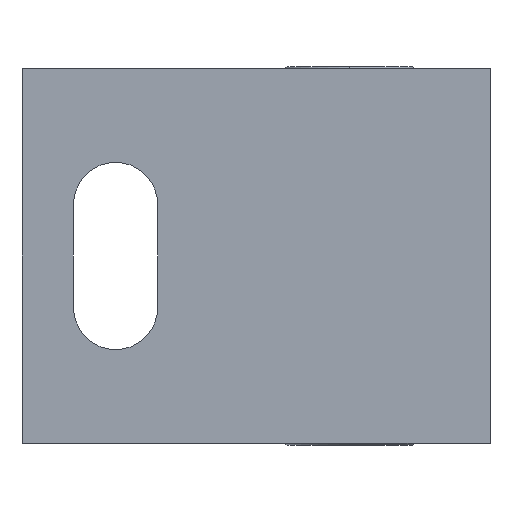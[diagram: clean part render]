
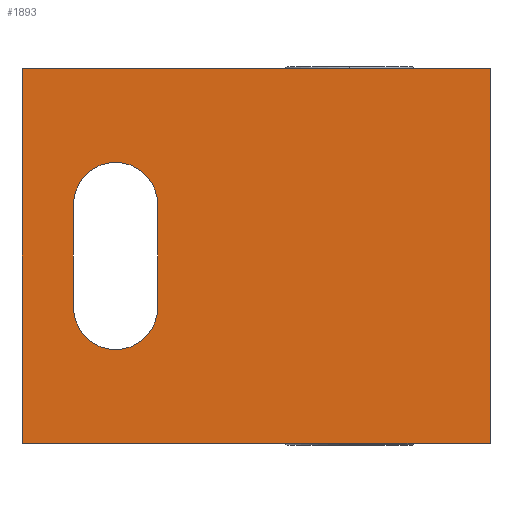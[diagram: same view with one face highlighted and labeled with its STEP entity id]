
A CAD part, front view. The second image highlights one B-rep face of the part: STEP entity #1893.
In plain terms, the highlighted planar face has unit normal (0, -1, 0).
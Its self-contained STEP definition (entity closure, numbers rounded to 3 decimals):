
#49 = CARTESIAN_POINT ( 'NONE',  ( 2.75, 0., 7.25 ) ) ;
#63 = VECTOR ( 'NONE', #826, 1000. ) ;
#137 = LINE ( 'NONE', #2048, #1052 ) ;
#163 = VERTEX_POINT ( 'NONE', #1337 ) ;
#362 = CARTESIAN_POINT ( 'NONE',  ( 5., 0., 7.25 ) ) ;
#380 = DIRECTION ( 'NONE',  ( 0., 1., 0. ) ) ;
#381 = AXIS2_PLACEMENT_3D ( 'NONE', #2721, #541, #808 ) ;
#391 = EDGE_LOOP ( 'NONE', ( #2719, #1421, #1124, #778 ) ) ;
#457 = CARTESIAN_POINT ( 'NONE',  ( 2.75, 0., 7.25 ) ) ;
#541 = DIRECTION ( 'NONE',  ( 0., 1., 0. ) ) ;
#560 = EDGE_LOOP ( 'NONE', ( #1840, #853, #2338, #789 ) ) ;
#563 = CIRCLE ( 'NONE', #1141, 2.25 ) ;
#676 = VERTEX_POINT ( 'NONE', #1767 ) ;
#736 = LINE ( 'NONE', #1593, #2573 ) ;
#749 = VECTOR ( 'NONE', #772, 1000. ) ;
#772 = DIRECTION ( 'NONE',  ( 0., 0., -1. ) ) ;
#778 = ORIENTED_EDGE ( 'NONE', *, *, #1394, .T. ) ;
#789 = ORIENTED_EDGE ( 'NONE', *, *, #2336, .T. ) ;
#808 = DIRECTION ( 'NONE',  ( -1., 0., 0. ) ) ;
#826 = DIRECTION ( 'NONE',  ( 0., 0., -1. ) ) ;
#850 = EDGE_CURVE ( 'NONE', #1024, #676, #1600, .T. ) ;
#853 = ORIENTED_EDGE ( 'NONE', *, *, #1249, .F. ) ;
#880 = VECTOR ( 'NONE', #1125, 1000. ) ;
#905 = LINE ( 'NONE', #457, #880 ) ;
#1020 = LINE ( 'NONE', #2703, #63 ) ;
#1024 = VERTEX_POINT ( 'NONE', #1051 ) ;
#1051 = CARTESIAN_POINT ( 'NONE',  ( 7.25, 0., 12.75 ) ) ;
#1052 = VECTOR ( 'NONE', #2257, 1000. ) ;
#1124 = ORIENTED_EDGE ( 'NONE', *, *, #2120, .T. ) ;
#1125 = DIRECTION ( 'NONE',  ( 0., 0., 1. ) ) ;
#1141 = AXIS2_PLACEMENT_3D ( 'NONE', #362, #1217, #2071 ) ;
#1217 = DIRECTION ( 'NONE',  ( 0., 1., 0. ) ) ;
#1249 = EDGE_CURVE ( 'NONE', #2405, #1886, #736, .T. ) ;
#1309 = CARTESIAN_POINT ( 'NONE',  ( 0., 0., 0. ) ) ;
#1337 = CARTESIAN_POINT ( 'NONE',  ( 0., 0., 0. ) ) ;
#1348 = EDGE_CURVE ( 'NONE', #1905, #2405, #137, .T. ) ;
#1357 = DIRECTION ( 'NONE',  ( 0., 0., -1. ) ) ;
#1394 = EDGE_CURVE ( 'NONE', #2446, #1024, #2524, .T. ) ;
#1421 = ORIENTED_EDGE ( 'NONE', *, *, #2420, .T. ) ;
#1467 = DIRECTION ( 'NONE',  ( 0., 0., 1. ) ) ;
#1508 = AXIS2_PLACEMENT_3D ( 'NONE', #2536, #380, #1467 ) ;
#1541 = EDGE_CURVE ( 'NONE', #163, #1886, #2410, .T. ) ;
#1593 = CARTESIAN_POINT ( 'NONE',  ( 25., 0., 20. ) ) ;
#1600 = LINE ( 'NONE', #1615, #749 ) ;
#1615 = CARTESIAN_POINT ( 'NONE',  ( 7.25, 0., 7.25 ) ) ;
#1765 = DIRECTION ( 'NONE',  ( 1., 0., 0. ) ) ;
#1767 = CARTESIAN_POINT ( 'NONE',  ( 7.25, 0., 7.25 ) ) ;
#1840 = ORIENTED_EDGE ( 'NONE', *, *, #1541, .T. ) ;
#1886 = VERTEX_POINT ( 'NONE', #2260 ) ;
#1893 = ADVANCED_FACE ( 'NONE', ( #2550, #2746 ), #2323, .F. ) ;
#1905 = VERTEX_POINT ( 'NONE', #2334 ) ;
#2048 = CARTESIAN_POINT ( 'NONE',  ( 0., 0., 20. ) ) ;
#2071 = DIRECTION ( 'NONE',  ( -1., 0., 0. ) ) ;
#2120 = EDGE_CURVE ( 'NONE', #2491, #2446, #905, .T. ) ;
#2125 = CARTESIAN_POINT ( 'NONE',  ( 2.75, 0., 12.75 ) ) ;
#2257 = DIRECTION ( 'NONE',  ( 1., 0., 0. ) ) ;
#2260 = CARTESIAN_POINT ( 'NONE',  ( 25., 0., 0. ) ) ;
#2290 = CARTESIAN_POINT ( 'NONE',  ( 25., 0., 20. ) ) ;
#2323 = PLANE ( 'NONE',  #1508 ) ;
#2334 = CARTESIAN_POINT ( 'NONE',  ( 0., 0., 20. ) ) ;
#2336 = EDGE_CURVE ( 'NONE', #1905, #163, #1020, .T. ) ;
#2338 = ORIENTED_EDGE ( 'NONE', *, *, #1348, .F. ) ;
#2392 = VECTOR ( 'NONE', #1765, 1000. ) ;
#2405 = VERTEX_POINT ( 'NONE', #2290 ) ;
#2410 = LINE ( 'NONE', #1309, #2392 ) ;
#2420 = EDGE_CURVE ( 'NONE', #676, #2491, #563, .T. ) ;
#2446 = VERTEX_POINT ( 'NONE', #2125 ) ;
#2491 = VERTEX_POINT ( 'NONE', #49 ) ;
#2524 = CIRCLE ( 'NONE', #381, 2.25 ) ;
#2536 = CARTESIAN_POINT ( 'NONE',  ( 0., 0., 20. ) ) ;
#2550 = FACE_BOUND ( 'NONE', #391, .T. ) ;
#2573 = VECTOR ( 'NONE', #1357, 1000. ) ;
#2703 = CARTESIAN_POINT ( 'NONE',  ( 0., 0., 20. ) ) ;
#2719 = ORIENTED_EDGE ( 'NONE', *, *, #850, .T. ) ;
#2721 = CARTESIAN_POINT ( 'NONE',  ( 5., 0., 12.75 ) ) ;
#2746 = FACE_OUTER_BOUND ( 'NONE', #560, .T. ) ;
